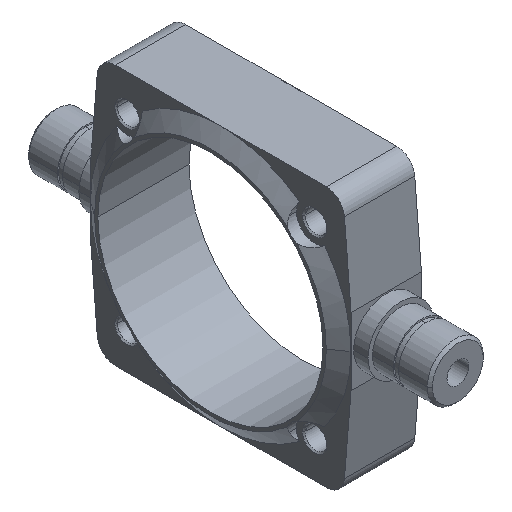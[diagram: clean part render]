
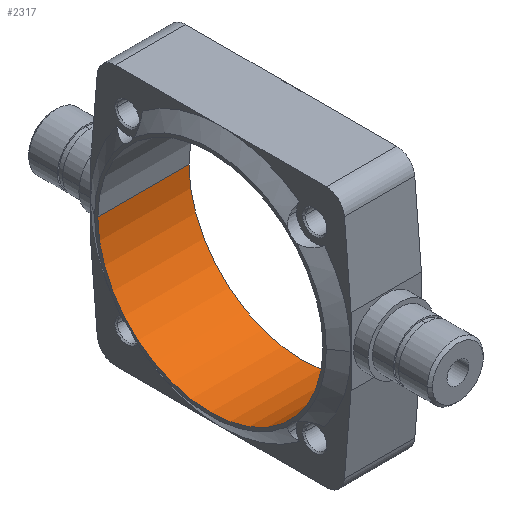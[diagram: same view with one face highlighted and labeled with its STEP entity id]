
A CAD part, isometric view. The second image highlights one B-rep face of the part: STEP entity #2317.
In plain terms, the highlighted cylindrical face has radius 43.25 mm (diameter 86.5 mm), a partial arc.
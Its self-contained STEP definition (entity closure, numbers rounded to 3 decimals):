
#2261=CARTESIAN_POINT('Axis2P3D Location',(0.,0.,0.)) ;
#2270=CARTESIAN_POINT('Vertex',(17.5,43.25,0.)) ;
#2272=CARTESIAN_POINT('Vertex',(17.5,-43.25,0.)) ;
#2275=CARTESIAN_POINT('Line Origine',(2.,-43.25,0.)) ;
#2279=CARTESIAN_POINT('Vertex',(-17.5,-43.25,0.)) ;
#2286=CARTESIAN_POINT('Vertex',(-17.5,43.25,0.)) ;
#2289=CARTESIAN_POINT('Line Origine',(2.,43.25,0.)) ;
#2301=CARTESIAN_POINT('Axis2P3D Location',(17.5,0.,0.)) ;
#2306=CARTESIAN_POINT('Axis2P3D Location',(-17.5,0.,0.)) ;
#2262=DIRECTION('Axis2P3D Direction',(1.,0.,0.)) ;
#2263=DIRECTION('Axis2P3D XDirection',(0.,1.,0.)) ;
#2276=DIRECTION('Vector Direction',(1.,0.,0.)) ;
#2290=DIRECTION('Vector Direction',(1.,0.,0.)) ;
#2302=DIRECTION('Axis2P3D Direction',(1.,0.,0.)) ;
#2307=DIRECTION('Axis2P3D Direction',(1.,0.,0.)) ;
#2264=AXIS2_PLACEMENT_3D('Cylinder Axis2P3D',#2261,#2262,#2263) ;
#2303=AXIS2_PLACEMENT_3D('Circle Axis2P3D',#2301,#2302,$) ;
#2308=AXIS2_PLACEMENT_3D('Circle Axis2P3D',#2306,#2307,$) ;
#2312=ORIENTED_EDGE('',*,*,#2305,.T.) ;
#2313=ORIENTED_EDGE('',*,*,#2293,.T.) ;
#2314=ORIENTED_EDGE('',*,*,#2310,.F.) ;
#2315=ORIENTED_EDGE('',*,*,#2281,.F.) ;
#2277=VECTOR('Line Direction',#2276,1.) ;
#2291=VECTOR('Line Direction',#2290,1.) ;
#2317=ADVANCED_FACE('PartBody',(#2316),#2265,.F.) ;
#2304=CIRCLE('generated circle',#2303,43.25) ;
#2309=CIRCLE('generated circle',#2308,43.25) ;
#2265=CYLINDRICAL_SURFACE('generated cylinder',#2264,43.25) ;
#2281=EDGE_CURVE('',#2273,#2280,#2278,.F.) ;
#2293=EDGE_CURVE('',#2271,#2287,#2292,.F.) ;
#2305=EDGE_CURVE('',#2273,#2271,#2304,.T.) ;
#2310=EDGE_CURVE('',#2280,#2287,#2309,.T.) ;
#2311=EDGE_LOOP('',(#2312,#2313,#2314,#2315)) ;
#2316=FACE_OUTER_BOUND('',#2311,.T.) ;
#2278=LINE('Line',#2275,#2277) ;
#2292=LINE('Line',#2289,#2291) ;
#2271=VERTEX_POINT('',#2270) ;
#2273=VERTEX_POINT('',#2272) ;
#2280=VERTEX_POINT('',#2279) ;
#2287=VERTEX_POINT('',#2286) ;
